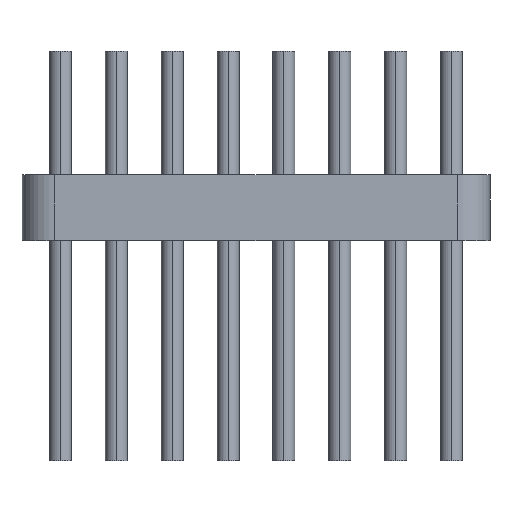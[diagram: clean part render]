
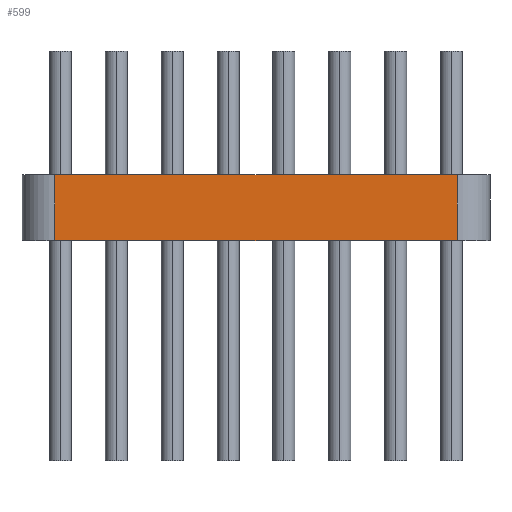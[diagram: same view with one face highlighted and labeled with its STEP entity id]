
A CAD part, top view. The second image highlights one B-rep face of the part: STEP entity #599.
In plain terms, the highlighted planar face has unit normal (0, 0, 1).
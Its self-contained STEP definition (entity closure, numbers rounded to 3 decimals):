
#55 = CARTESIAN_POINT ( 'NONE',  ( 9.14, 0., 0.75 ) ) ;
#141 = CARTESIAN_POINT ( 'NONE',  ( 9.14, 1.5, 0.75 ) ) ;
#147 = VERTEX_POINT ( 'NONE', #911 ) ;
#172 = LINE ( 'NONE', #141, #1130 ) ;
#179 = ORIENTED_EDGE ( 'NONE', *, *, #2031, .F. ) ;
#209 = DIRECTION ( 'NONE',  ( 1., 0., 0. ) ) ;
#231 = CARTESIAN_POINT ( 'NONE',  ( 0., 0., 0.75 ) ) ;
#292 = LINE ( 'NONE', #925, #2621 ) ;
#351 = DIRECTION ( 'NONE',  ( 0., 0., -1. ) ) ;
#367 = ORIENTED_EDGE ( 'NONE', *, *, #2066, .T. ) ;
#500 = EDGE_CURVE ( 'NONE', #812, #147, #609, .T. ) ;
#599 = ADVANCED_FACE ( 'NONE', ( #2395 ), #670, .F. ) ;
#609 = LINE ( 'NONE', #2201, #1751 ) ;
#633 = EDGE_CURVE ( 'NONE', #812, #1828, #292, .T. ) ;
#670 = PLANE ( 'NONE',  #1350 ) ;
#812 = VERTEX_POINT ( 'NONE', #1725 ) ;
#911 = CARTESIAN_POINT ( 'NONE',  ( 0., 0., 0.75 ) ) ;
#925 = CARTESIAN_POINT ( 'NONE',  ( 0., 1.5, 0.75 ) ) ;
#1052 = VERTEX_POINT ( 'NONE', #55 ) ;
#1130 = VECTOR ( 'NONE', #2519, 1000. ) ;
#1238 = ORIENTED_EDGE ( 'NONE', *, *, #633, .F. ) ;
#1350 = AXIS2_PLACEMENT_3D ( 'NONE', #2036, #351, #2455 ) ;
#1478 = EDGE_LOOP ( 'NONE', ( #367, #179, #1238, #1870 ) ) ;
#1725 = CARTESIAN_POINT ( 'NONE',  ( 0., 1.5, 0.75 ) ) ;
#1742 = DIRECTION ( 'NONE',  ( 0., -1., 0. ) ) ;
#1751 = VECTOR ( 'NONE', #1742, 1000. ) ;
#1800 = DIRECTION ( 'NONE',  ( 1., 0., 0. ) ) ;
#1828 = VERTEX_POINT ( 'NONE', #2491 ) ;
#1870 = ORIENTED_EDGE ( 'NONE', *, *, #500, .T. ) ;
#2031 = EDGE_CURVE ( 'NONE', #1828, #1052, #172, .T. ) ;
#2036 = CARTESIAN_POINT ( 'NONE',  ( 0., 1.5, 0.75 ) ) ;
#2066 = EDGE_CURVE ( 'NONE', #147, #1052, #2592, .T. ) ;
#2142 = VECTOR ( 'NONE', #209, 1000. ) ;
#2201 = CARTESIAN_POINT ( 'NONE',  ( 0., 1.5, 0.75 ) ) ;
#2395 = FACE_OUTER_BOUND ( 'NONE', #1478, .T. ) ;
#2455 = DIRECTION ( 'NONE',  ( -1., 0., 0. ) ) ;
#2491 = CARTESIAN_POINT ( 'NONE',  ( 9.14, 1.5, 0.75 ) ) ;
#2519 = DIRECTION ( 'NONE',  ( 0., -1., 0. ) ) ;
#2592 = LINE ( 'NONE', #231, #2142 ) ;
#2621 = VECTOR ( 'NONE', #1800, 1000. ) ;
